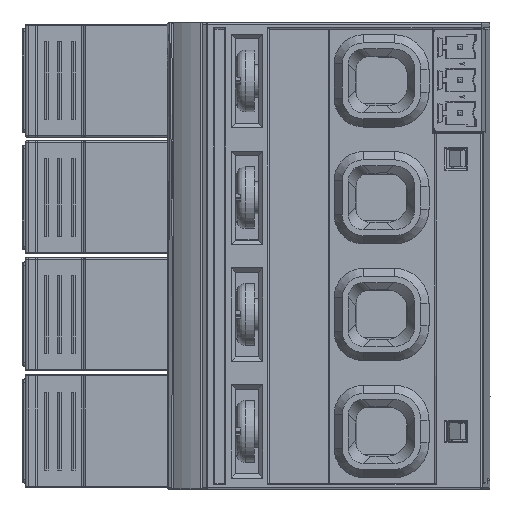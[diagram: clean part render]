
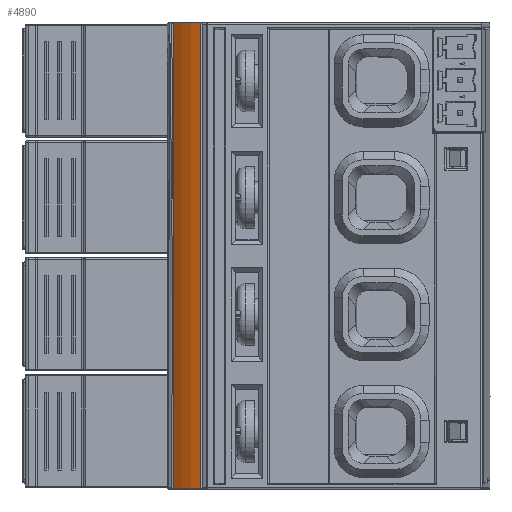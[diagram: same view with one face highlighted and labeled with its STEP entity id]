
A CAD part, left-side view. The second image highlights one B-rep face of the part: STEP entity #4890.
In plain terms, the highlighted cylindrical face has radius 12.5 mm (diameter 25 mm), a partial arc.
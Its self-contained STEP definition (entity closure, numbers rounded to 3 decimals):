
#4890 = ADVANCED_FACE( 'LABEL', ( #10449 ), #10450, .T. );
#10449 = FACE_OUTER_BOUND( '', #17122, .T. );
#10450 = CYLINDRICAL_SURFACE( '', #17123, 12.5 );
#17122 = EDGE_LOOP( '', ( #31294, #31295, #31296, #31297 ) );
#17123 = AXIS2_PLACEMENT_3D( '', #31298, #31299, #31300 );
#31294 = ORIENTED_EDGE( '', *, *, #43231, .F. );
#31295 = ORIENTED_EDGE( '', *, *, #37762, .T. );
#31296 = ORIENTED_EDGE( '', *, *, #44752, .T. );
#31297 = ORIENTED_EDGE( '', *, *, #42553, .T. );
#31298 = CARTESIAN_POINT( '', ( -29.334, -11.253, 28.4 ) );
#31299 = DIRECTION( '', ( 0., 0., -1. ) );
#31300 = DIRECTION( '', ( 0.814, -0.581, 0. ) );
#37762 = EDGE_CURVE( '', #49516, #49514, #49517, .T. );
#42553 = EDGE_CURVE( '', #58150, #58148, #58151, .F. );
#43231 = EDGE_CURVE( '', #49516, #58148, #59367, .T. );
#44752 = EDGE_CURVE( '', #49514, #58150, #62103, .T. );
#49514 = VERTEX_POINT( '', #70228 );
#49516 = VERTEX_POINT( '', #70230 );
#49517 = CIRCLE( '', #70231, 12.5 );
#58148 = VERTEX_POINT( '', #82785 );
#58150 = VERTEX_POINT( '', #82787 );
#58151 = CIRCLE( '', #82788, 12.5 );
#59367 = LINE( '', #84545, #84546 );
#62103 = LINE( '', #88619, #88620 );
#70228 = CARTESIAN_POINT( '', ( -41.154, -7.185, 28.4 ) );
#70230 = CARTESIAN_POINT( '', ( -38.767, -3.05, 28.4 ) );
#70231 = AXIS2_PLACEMENT_3D( '', #98755, #98756, #98757 );
#82785 = CARTESIAN_POINT( '', ( -38.767, -3.05, 100.2 ) );
#82787 = CARTESIAN_POINT( '', ( -41.154, -7.185, 100.2 ) );
#82788 = AXIS2_PLACEMENT_3D( '', #104589, #104590, #104591 );
#84545 = CARTESIAN_POINT( '', ( -38.767, -3.05, 28.4 ) );
#84546 = VECTOR( '', #105406, 1000. );
#88619 = CARTESIAN_POINT( '', ( -41.154, -7.185, 28.4 ) );
#88620 = VECTOR( '', #107158, 1000. );
#98755 = CARTESIAN_POINT( '', ( -29.334, -11.253, 28.4 ) );
#98756 = DIRECTION( '', ( 0., 0., 1. ) );
#98757 = DIRECTION( '', ( 1., 0., 0. ) );
#104589 = CARTESIAN_POINT( '', ( -29.334, -11.253, 100.2 ) );
#104590 = DIRECTION( '', ( 0., 0., 1. ) );
#104591 = DIRECTION( '', ( 1., 0., 0. ) );
#105406 = DIRECTION( '', ( 0., 0., 1. ) );
#107158 = DIRECTION( '', ( 0., 0., 1. ) );
